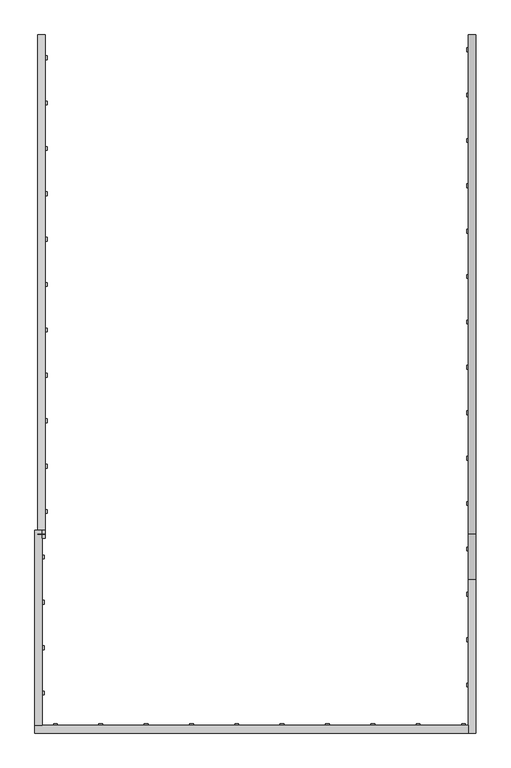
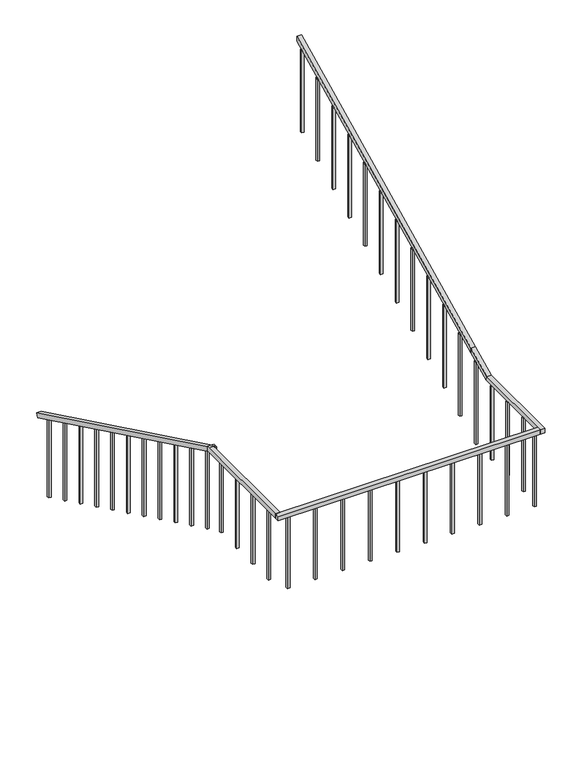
"""IFC4 building model written with IfcOpenShell, lengths in millimetres: railing geometry, ADSK_Стандартное_h 900 Поручень квадратный без направляющих."""

from ifc_helpers import new_model, si_unit, frame, origin, place, context, project, spatial, polyline, outline, extrude, faceted_brep, source, transform, mapped, element, save


def railing_68418ca2(model_context):
    return source(origin(), model_context, "Body", "SolidModel", [
        faceted_brep([(-3186.9240021, -5931.5777713, 1045.8333333), (-3136.9240021, -5931.5777713, 1045.8333333), (-3136.9240021, -5953.4374067, 1000.8649406), (-3186.9240021, -5953.4374067, 1000.8649406), (-3186.9240021, -9231.5777713, 2650.0), (-3186.9240021, -9253.4374067, 2605.0316073), (-3136.9240021, -9253.4374067, 2605.0316073), (-3136.9240021, -9231.5777713, 2650.0)], [[[0, 1, 2, 3]], [[4, 5, 6, 7]], [[0, 3, 5, 4]], [[3, 2, 6, 5]], [[2, 1, 7, 6]], [[1, 0, 4, 7]]]),
        faceted_brep([(-3136.9240021, -9206.9777713, 2650.0), (-3136.9240021, -9256.9777713, 2650.0), (-3136.9240021, -9256.9777713, 2600.0), (-3136.9240021, -9206.9777713, 2600.0), (-3156.9240021, -9206.9777713, 2650.0), (-3156.9240021, -9206.9777713, 2600.0), (-3156.9240021, -9256.9777713, 2600.0), (-3156.9240021, -9256.9777713, 2650.0)], [[[0, 1, 2, 3]], [[4, 5, 6, 7]], [[0, 3, 5, 4]], [[3, 2, 6, 5]], [[2, 1, 7, 6]], [[1, 0, 4, 7]]]),
        faceted_brep([(-3206.9240021, -9206.9777713, 2650.0), (-3156.9240021, -9206.9777713, 2650.0), (-3156.9240021, -9206.9777713, 2600.0), (-3206.9240021, -9206.9777713, 2600.0), (-3206.9240021, -10495.7777713, 2650.0), (-3206.9240021, -10495.7777713, 2600.0), (-3156.9240021, -10495.7777713, 2600.0), (-3156.9240021, -10495.7777713, 2650.0)], [[[0, 1, 2, 3]], [[4, 5, 6, 7]], [[0, 3, 5, 4]], [[3, 2, 6, 5]], [[2, 1, 7, 6]], [[1, 0, 4, 7]]]),
        faceted_brep([(-3206.9240021, -10545.7777713, 2650.0), (-3206.9240021, -10495.7777713, 2650.0), (-3206.9240021, -10495.7777713, 2600.0), (-3206.9240021, -10545.7777713, 2600.0), (-338.1240021, -10545.7777713, 2650.0), (-338.1240021, -10545.7777713, 2600.0), (-338.1240021, -10495.7777713, 2600.0), (-338.1240021, -10495.7777713, 2650.0)], [[[0, 1, 2, 3]], [[4, 5, 6, 7]], [[0, 3, 5, 4]], [[3, 2, 6, 5]], [[2, 1, 7, 6]], [[1, 0, 4, 7]]]),
        faceted_brep([(-288.1240021, -10545.7777713, 2650.0), (-338.1240021, -10545.7777713, 2650.0), (-338.1240021, -10545.7777713, 2600.0), (-288.1240021, -10545.7777713, 2600.0), (-288.1240021, -9520.068871, 2600.0), (-288.1240021, -9531.5777713, 2650.0), (-338.1240021, -9520.068871, 2600.0), (-338.1240021, -9531.5777713, 2650.0), (-288.1240021, -9231.5777713, 2795.8333333), (-288.1240021, -9231.5777713, 2740.238729), (-338.1240021, -9231.5777713, 2740.238729), (-338.1240021, -9231.5777713, 2795.8333333)], [[[0, 1, 2, 3]], [[0, 3, 4, 5]], [[3, 2, 6, 4]], [[2, 1, 7, 6]], [[1, 0, 5, 7]], [[8, 9, 10, 11]], [[5, 4, 9, 8]], [[4, 6, 10, 9]], [[6, 7, 11, 10]], [[7, 5, 8, 11]]]),
        faceted_brep([(-288.1240021, -9231.5777713, 2795.8333333), (-338.1240021, -9231.5777713, 2795.8333333), (-338.1240021, -9231.5777713, 2740.238729), (-288.1240021, -9231.5777713, 2740.238729), (-288.1240021, -5931.5777713, 4400.0), (-288.1240021, -5931.5777713, 4344.4053957), (-338.1240021, -5931.5777713, 4344.4053957), (-338.1240021, -5931.5777713, 4400.0)], [[[0, 1, 2, 3]], [[4, 5, 6, 7]], [[0, 3, 5, 4]], [[3, 2, 6, 5]], [[2, 1, 7, 6]], [[1, 0, 4, 7]]]),
        extrude(outline(polyline([(-6041.2777713, 3354.1666667), (-6041.2777713, 4296.6736111), (-6016.2777713, 4308.8263889), (-6016.2777713, 3354.1666667), (-6041.2777713, 3354.1666667)])), frame((-350.6240021, 0.0, 0.0), z_axis=(1.0, 0.0, 0.0), x_axis=(0.0, 1.0, 0.0)), (0.0, 0.0, 1.0), 25.0),
        extrude(outline(polyline([(-6341.2777713, 3208.3333333), (-6341.2777713, 4150.8402778), (-6316.2777713, 4162.9930556), (-6316.2777713, 3208.3333333), (-6341.2777713, 3208.3333333)])), frame((-350.6240021, 0.0, 0.0), z_axis=(1.0, 0.0, 0.0), x_axis=(0.0, 1.0, 0.0)), (0.0, 0.0, 1.0), 25.0),
        extrude(outline(polyline([(-6641.2777713, 3062.5), (-6641.2777713, 4005.0069444), (-6616.2777713, 4017.1597222), (-6616.2777713, 3062.5), (-6641.2777713, 3062.5)])), frame((-350.6240021, 0.0, 0.0), z_axis=(1.0, 0.0, 0.0), x_axis=(0.0, 1.0, 0.0)), (0.0, 0.0, 1.0), 25.0),
        extrude(outline(polyline([(-6941.2777713, 2916.6666667), (-6941.2777713, 3859.1736111), (-6916.2777713, 3871.3263889), (-6916.2777713, 2916.6666667), (-6941.2777713, 2916.6666667)])), frame((-350.6240021, 0.0, 0.0), z_axis=(1.0, 0.0, 0.0), x_axis=(0.0, 1.0, 0.0)), (0.0, 0.0, 1.0), 25.0),
        extrude(outline(polyline([(-7241.2777713, 2770.8333333), (-7241.2777713, 3713.3402778), (-7216.2777713, 3725.4930556), (-7216.2777713, 2770.8333333), (-7241.2777713, 2770.8333333)])), frame((-350.6240021, 0.0, 0.0), z_axis=(1.0, 0.0, 0.0), x_axis=(0.0, 1.0, 0.0)), (0.0, 0.0, 1.0), 25.0),
        extrude(outline(polyline([(-7541.2777713, 2625.0), (-7541.2777713, 3567.5069444), (-7516.2777713, 3579.6597222), (-7516.2777713, 2625.0), (-7541.2777713, 2625.0)])), frame((-350.6240021, 0.0, 0.0), z_axis=(1.0, 0.0, 0.0), x_axis=(0.0, 1.0, 0.0)), (0.0, 0.0, 1.0), 25.0),
        extrude(outline(polyline([(-7841.2777713, 2479.1666667), (-7841.2777713, 3421.6736111), (-7816.2777713, 3433.8263889), (-7816.2777713, 2479.1666667), (-7841.2777713, 2479.1666667)])), frame((-350.6240021, 0.0, 0.0), z_axis=(1.0, 0.0, 0.0), x_axis=(0.0, 1.0, 0.0)), (0.0, 0.0, 1.0), 25.0),
        extrude(outline(polyline([(-8141.2777713, 2333.3333333), (-8141.2777713, 3275.8402778), (-8116.2777713, 3287.9930556), (-8116.2777713, 2333.3333333), (-8141.2777713, 2333.3333333)])), frame((-350.6240021, 0.0, 0.0), z_axis=(1.0, 0.0, 0.0), x_axis=(0.0, 1.0, 0.0)), (0.0, 0.0, 1.0), 25.0),
        extrude(outline(polyline([(-8441.2777713, 2187.5), (-8441.2777713, 3130.0069444), (-8416.2777713, 3142.1597222), (-8416.2777713, 2187.5), (-8441.2777713, 2187.5)])), frame((-350.6240021, 0.0, 0.0), z_axis=(1.0, 0.0, 0.0), x_axis=(0.0, 1.0, 0.0)), (0.0, 0.0, 1.0), 25.0),
        extrude(outline(polyline([(-8741.2777713, 2041.6666667), (-8741.2777713, 2984.1736111), (-8716.2777713, 2996.3263889), (-8716.2777713, 2041.6666667), (-8741.2777713, 2041.6666667)])), frame((-350.6240021, 0.0, 0.0), z_axis=(1.0, 0.0, 0.0), x_axis=(0.0, 1.0, 0.0)), (0.0, 0.0, 1.0), 25.0),
        extrude(outline(polyline([(-9041.2777713, 1895.8333333), (-9041.2777713, 2838.3402778), (-9016.2777713, 2850.4930556), (-9016.2777713, 1895.8333333), (-9041.2777713, 1895.8333333)])), frame((-350.6240021, 0.0, 0.0), z_axis=(1.0, 0.0, 0.0), x_axis=(0.0, 1.0, 0.0)), (0.0, 0.0, 1.0), 25.0),
        extrude(outline(polyline([(-9341.2777713, 1750.0), (-9341.2777713, 2692.5069444), (-9316.2777713, 2704.6597222), (-9316.2777713, 1750.0), (-9341.2777713, 1750.0)])), frame((-350.6240021, 0.0, 0.0), z_axis=(1.0, 0.0, 0.0), x_axis=(0.0, 1.0, 0.0)), (0.0, 0.0, 1.0), 25.0),
        extrude(outline(polyline([(-325.6240021, -9641.2777713), (-350.6240021, -9641.2777713), (-350.6240021, -9616.2777713), (-325.6240021, -9616.2777713), (-325.6240021, -9641.2777713)])), frame((0.0, 0.0, 1750.0), z_axis=(0.0, 0.0, 1.0), x_axis=(1.0, 0.0, 0.0)), (0.0, 0.0, 1.0), 850.0),
        extrude(outline(polyline([(-325.6240021, -9941.2777713), (-350.6240021, -9941.2777713), (-350.6240021, -9916.2777713), (-325.6240021, -9916.2777713), (-325.6240021, -9941.2777713)])), frame((0.0, 0.0, 1750.0), z_axis=(0.0, 0.0, 1.0), x_axis=(1.0, 0.0, 0.0)), (0.0, 0.0, 1.0), 850.0),
        extrude(outline(polyline([(-325.6240021, -10241.2777713), (-350.6240021, -10241.2777713), (-350.6240021, -10216.2777713), (-325.6240021, -10216.2777713), (-325.6240021, -10241.2777713)])), frame((0.0, 0.0, 1750.0), z_axis=(0.0, 0.0, 1.0), x_axis=(1.0, 0.0, 0.0)), (0.0, 0.0, 1.0), 850.0),
        extrude(outline(polyline([(-383.6240021, -10508.2777713), (-383.6240021, -10483.2777713), (-358.6240021, -10483.2777713), (-358.6240021, -10508.2777713), (-383.6240021, -10508.2777713)])), frame((0.0, 0.0, 1750.0), z_axis=(0.0, 0.0, 1.0), x_axis=(1.0, 0.0, 0.0)), (0.0, 0.0, 1.0), 850.0),
        extrude(outline(polyline([(-683.6240021, -10508.2777713), (-683.6240021, -10483.2777713), (-658.6240021, -10483.2777713), (-658.6240021, -10508.2777713), (-683.6240021, -10508.2777713)])), frame((0.0, 0.0, 1750.0), z_axis=(0.0, 0.0, 1.0), x_axis=(1.0, 0.0, 0.0)), (0.0, 0.0, 1.0), 850.0),
        extrude(outline(polyline([(-983.6240021, -10508.2777713), (-983.6240021, -10483.2777713), (-958.6240021, -10483.2777713), (-958.6240021, -10508.2777713), (-983.6240021, -10508.2777713)])), frame((0.0, 0.0, 1750.0), z_axis=(0.0, 0.0, 1.0), x_axis=(1.0, 0.0, 0.0)), (0.0, 0.0, 1.0), 850.0),
        extrude(outline(polyline([(-1283.6240021, -10508.2777713), (-1283.6240021, -10483.2777713), (-1258.6240021, -10483.2777713), (-1258.6240021, -10508.2777713), (-1283.6240021, -10508.2777713)])), frame((0.0, 0.0, 1750.0), z_axis=(0.0, 0.0, 1.0), x_axis=(1.0, 0.0, 0.0)), (0.0, 0.0, 1.0), 850.0),
        extrude(outline(polyline([(-1583.6240021, -10508.2777713), (-1583.6240021, -10483.2777713), (-1558.6240021, -10483.2777713), (-1558.6240021, -10508.2777713), (-1583.6240021, -10508.2777713)])), frame((0.0, 0.0, 1750.0), z_axis=(0.0, 0.0, 1.0), x_axis=(1.0, 0.0, 0.0)), (0.0, 0.0, 1.0), 850.0),
        extrude(outline(polyline([(-1883.6240021, -10508.2777713), (-1883.6240021, -10483.2777713), (-1858.6240021, -10483.2777713), (-1858.6240021, -10508.2777713), (-1883.6240021, -10508.2777713)])), frame((0.0, 0.0, 1750.0), z_axis=(0.0, 0.0, 1.0), x_axis=(1.0, 0.0, 0.0)), (0.0, 0.0, 1.0), 850.0),
        extrude(outline(polyline([(-2183.6240021, -10508.2777713), (-2183.6240021, -10483.2777713), (-2158.6240021, -10483.2777713), (-2158.6240021, -10508.2777713), (-2183.6240021, -10508.2777713)])), frame((0.0, 0.0, 1750.0), z_axis=(0.0, 0.0, 1.0), x_axis=(1.0, 0.0, 0.0)), (0.0, 0.0, 1.0), 850.0),
        extrude(outline(polyline([(-2483.6240021, -10508.2777713), (-2483.6240021, -10483.2777713), (-2458.6240021, -10483.2777713), (-2458.6240021, -10508.2777713), (-2483.6240021, -10508.2777713)])), frame((0.0, 0.0, 1750.0), z_axis=(0.0, 0.0, 1.0), x_axis=(1.0, 0.0, 0.0)), (0.0, 0.0, 1.0), 850.0),
        extrude(outline(polyline([(-2783.6240021, -10508.2777713), (-2783.6240021, -10483.2777713), (-2758.6240021, -10483.2777713), (-2758.6240021, -10508.2777713), (-2783.6240021, -10508.2777713)])), frame((0.0, 0.0, 1750.0), z_axis=(0.0, 0.0, 1.0), x_axis=(1.0, 0.0, 0.0)), (0.0, 0.0, 1.0), 850.0),
        extrude(outline(polyline([(-3083.6240021, -10508.2777713), (-3083.6240021, -10483.2777713), (-3058.6240021, -10483.2777713), (-3058.6240021, -10508.2777713), (-3083.6240021, -10508.2777713)])), frame((0.0, 0.0, 1750.0), z_axis=(0.0, 0.0, 1.0), x_axis=(1.0, 0.0, 0.0)), (0.0, 0.0, 1.0), 850.0),
        extrude(outline(polyline([(-3169.4240021, -10269.0777713), (-3144.4240021, -10269.0777713), (-3144.4240021, -10294.0777713), (-3169.4240021, -10294.0777713), (-3169.4240021, -10269.0777713)])), frame((0.0, 0.0, 1750.0), z_axis=(0.0, 0.0, 1.0), x_axis=(1.0, 0.0, 0.0)), (0.0, 0.0, 1.0), 850.0),
        extrude(outline(polyline([(-3169.4240021, -9969.0777713), (-3144.4240021, -9969.0777713), (-3144.4240021, -9994.0777713), (-3169.4240021, -9994.0777713), (-3169.4240021, -9969.0777713)])), frame((0.0, 0.0, 1750.0), z_axis=(0.0, 0.0, 1.0), x_axis=(1.0, 0.0, 0.0)), (0.0, 0.0, 1.0), 850.0),
        extrude(outline(polyline([(-3169.4240021, -9669.0777713), (-3144.4240021, -9669.0777713), (-3144.4240021, -9694.0777713), (-3169.4240021, -9694.0777713), (-3169.4240021, -9669.0777713)])), frame((0.0, 0.0, 1750.0), z_axis=(0.0, 0.0, 1.0), x_axis=(1.0, 0.0, 0.0)), (0.0, 0.0, 1.0), 850.0),
        extrude(outline(polyline([(-3169.4240021, -9369.0777713), (-3144.4240021, -9369.0777713), (-3144.4240021, -9394.0777713), (-3169.4240021, -9394.0777713), (-3169.4240021, -9369.0777713)])), frame((0.0, 0.0, 1750.0), z_axis=(0.0, 0.0, 1.0), x_axis=(1.0, 0.0, 0.0)), (0.0, 0.0, 1.0), 850.0),
        extrude(outline(polyline([(-9069.0777713, 2521.0069444), (-9069.0777713, 1604.1666667), (-9094.0777713, 1604.1666667), (-9094.0777713, 2533.1597222), (-9069.0777713, 2521.0069444)])), frame((-3149.4240021, 0.0, 0.0), z_axis=(1.0, 0.0, 0.0), x_axis=(0.0, 1.0, 0.0)), (0.0, 0.0, 1.0), 25.0),
        extrude(outline(polyline([(-8769.0777713, 2375.1736111), (-8769.0777713, 1458.3333333), (-8794.0777713, 1458.3333333), (-8794.0777713, 2387.3263889), (-8769.0777713, 2375.1736111)])), frame((-3149.4240021, 0.0, 0.0), z_axis=(1.0, 0.0, 0.0), x_axis=(0.0, 1.0, 0.0)), (0.0, 0.0, 1.0), 25.0),
        extrude(outline(polyline([(-8469.0777713, 2229.3402778), (-8469.0777713, 1312.5), (-8494.0777713, 1312.5), (-8494.0777713, 2241.4930556), (-8469.0777713, 2229.3402778)])), frame((-3149.4240021, 0.0, 0.0), z_axis=(1.0, 0.0, 0.0), x_axis=(0.0, 1.0, 0.0)), (0.0, 0.0, 1.0), 25.0),
        extrude(outline(polyline([(-8169.0777713, 2083.5069444), (-8169.0777713, 1166.6666667), (-8194.0777713, 1166.6666667), (-8194.0777713, 2095.6597222), (-8169.0777713, 2083.5069444)])), frame((-3149.4240021, 0.0, 0.0), z_axis=(1.0, 0.0, 0.0), x_axis=(0.0, 1.0, 0.0)), (0.0, 0.0, 1.0), 25.0),
        extrude(outline(polyline([(-7869.0777713, 1937.6736111), (-7869.0777713, 1020.8333333), (-7894.0777713, 1020.8333333), (-7894.0777713, 1949.8263889), (-7869.0777713, 1937.6736111)])), frame((-3149.4240021, 0.0, 0.0), z_axis=(1.0, 0.0, 0.0), x_axis=(0.0, 1.0, 0.0)), (0.0, 0.0, 1.0), 25.0),
        extrude(outline(polyline([(-7569.0777713, 1791.8402778), (-7569.0777713, 875.0), (-7594.0777713, 875.0), (-7594.0777713, 1803.9930556), (-7569.0777713, 1791.8402778)])), frame((-3149.4240021, 0.0, 0.0), z_axis=(1.0, 0.0, 0.0), x_axis=(0.0, 1.0, 0.0)), (0.0, 0.0, 1.0), 25.0),
        extrude(outline(polyline([(-7269.0777713, 1646.0069444), (-7269.0777713, 729.1666667), (-7294.0777713, 729.1666667), (-7294.0777713, 1658.1597222), (-7269.0777713, 1646.0069444)])), frame((-3149.4240021, 0.0, 0.0), z_axis=(1.0, 0.0, 0.0), x_axis=(0.0, 1.0, 0.0)), (0.0, 0.0, 1.0), 25.0),
        extrude(outline(polyline([(-6969.0777713, 1500.1736111), (-6969.0777713, 583.3333333), (-6994.0777713, 583.3333333), (-6994.0777713, 1512.3263889), (-6969.0777713, 1500.1736111)])), frame((-3149.4240021, 0.0, 0.0), z_axis=(1.0, 0.0, 0.0), x_axis=(0.0, 1.0, 0.0)), (0.0, 0.0, 1.0), 25.0),
        extrude(outline(polyline([(-6669.0777713, 1354.3402778), (-6669.0777713, 437.5), (-6694.0777713, 437.5), (-6694.0777713, 1366.4930556), (-6669.0777713, 1354.3402778)])), frame((-3149.4240021, 0.0, 0.0), z_axis=(1.0, 0.0, 0.0), x_axis=(0.0, 1.0, 0.0)), (0.0, 0.0, 1.0), 25.0),
        extrude(outline(polyline([(-6369.0777713, 1208.5069444), (-6369.0777713, 291.6666667), (-6394.0777713, 291.6666667), (-6394.0777713, 1220.6597222), (-6369.0777713, 1208.5069444)])), frame((-3149.4240021, 0.0, 0.0), z_axis=(1.0, 0.0, 0.0), x_axis=(0.0, 1.0, 0.0)), (0.0, 0.0, 1.0), 25.0),
        extrude(outline(polyline([(-6069.0777713, 1062.6736111), (-6069.0777713, 145.8333333), (-6094.0777713, 145.8333333), (-6094.0777713, 1074.8263889), (-6069.0777713, 1062.6736111)])), frame((-3149.4240021, 0.0, 0.0), z_axis=(1.0, 0.0, 0.0), x_axis=(0.0, 1.0, 0.0)), (0.0, 0.0, 1.0), 25.0),
    ])


if __name__ == "__main__":
    model = new_model("IFC4")
    model_context = context("Model", 3, world=origin())
    ifc_project = project(units=[si_unit("LENGTHUNIT", "METRE", prefix="MILLI")], contexts=[model_context])
    site = spatial("IfcSite", under=ifc_project)
    building = spatial("IfcBuilding", under=site)
    placement = place(None, origin())
    railing_shape = railing_68418ca2(model_context)
    element("IfcRailing", 1, ObjectType="ADSK_Стандартное_h 900 Поручень квадратный без направляющих", at=placement, inside=building, context=model_context, shape_type="MappedRepresentation", body=[
        mapped(railing_shape, transform((0.0, 0.0, 0.0), x_axis=(1.0, 0.0, 0.0), y_axis=(0.0, 1.0, 0.0), z_axis=(0.0, 0.0, 1.0))),
    ])
    save(model, "model.ifc")
